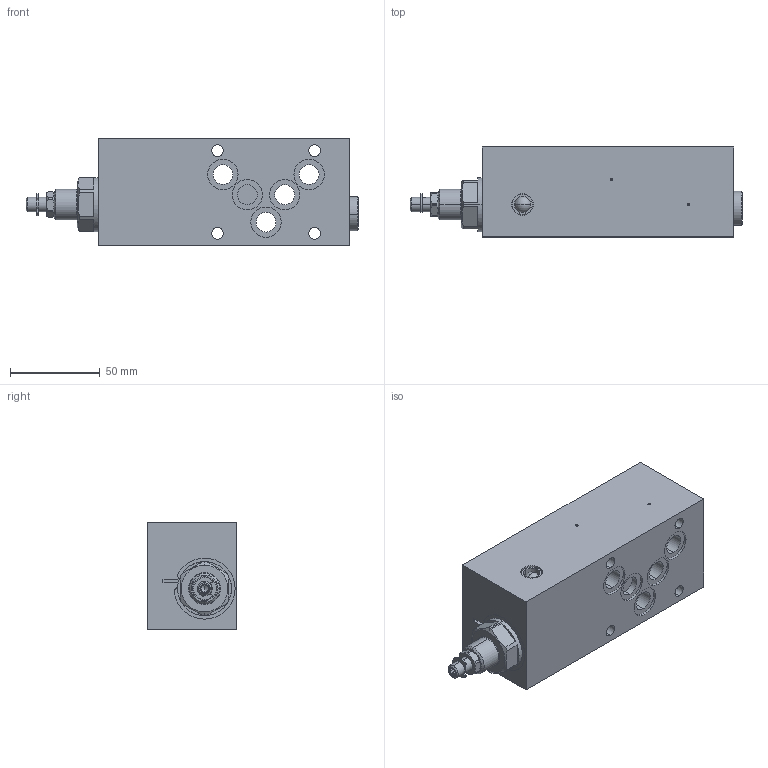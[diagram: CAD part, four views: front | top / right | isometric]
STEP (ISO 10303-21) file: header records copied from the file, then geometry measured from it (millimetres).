
FILE_DESCRIPTION (( 'STEP AP214' ), '1' );
FILE_NAME ('MVSSA10-A.STEP', '2017-03-23T06:17:56', ( '' ), ( '' ), 'SwSTEP 2.0', 'SolidWorks 2016', '' );
FILE_SCHEMA (( 'AUTOMOTIVE_DESIGN' ));
Length unit declared in the file: millimetre
Products named in the file (1): MVSSA10-A
Bounding box: 184.8 x 50 x 60 mm (x, y, z)
Volume: 404473.9 mm3; surface area: 51330.4 mm2
Topology: 2 solids, 2 shells, 227 faces, 561 edges, 357 vertices
Faces by surface type: cylinder 96, plane 83, cone 40, torus 4, sphere 4
Entity records: 9523 total; most frequent: CARTESIAN_POINT 1464, DIRECTION 1225, ORIENTED_EDGE 1102, EDGE_CURVE 551, AXIS2_PLACEMENT_3D 498, VERTEX_POINT 357, EDGE_LOOP 272, CIRCLE 270
